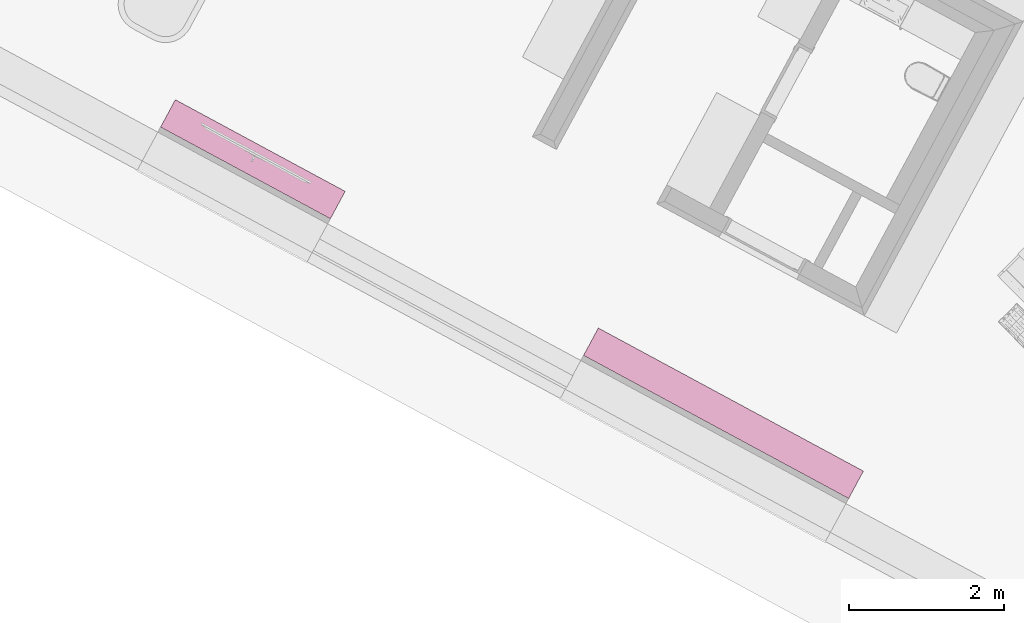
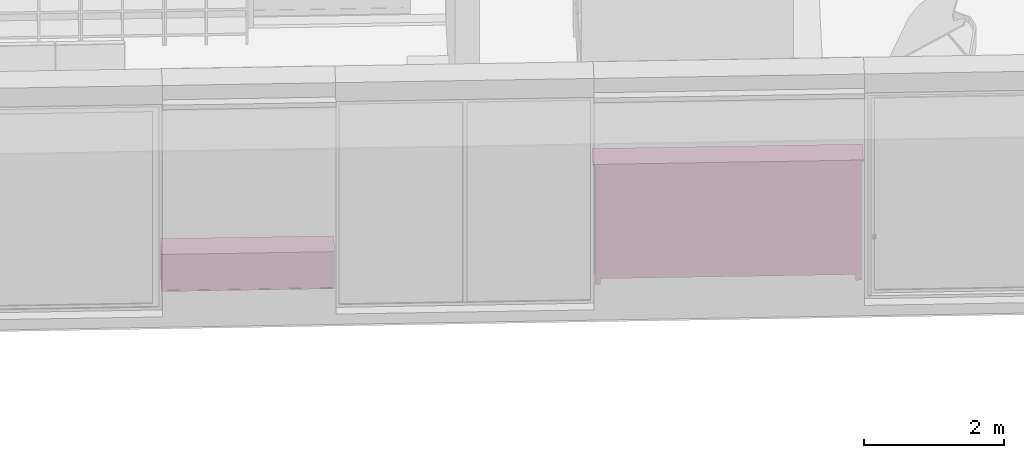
# One storey, part 27 of 36: 2 furnishings.
"""IFC2X3 building model written with IfcOpenShell, lengths in metres."""

from ifc_helpers import new_model, entity, si_unit, converted_unit, derived_unit, money_unit, direction, frame, origin_with_axes, place, context, subcontext, project, spatial, faceted_brep, type_object, element, save


model = new_model("IFC2X3")

# Units and contexts
model_context = context("Model", 3, precision=1e-05, world=origin_with_axes(), true_north=direction((0.0, 1.0)))
body_context = subcontext(model_context, "Body", "Model", "MODEL_VIEW")
ifc_project = project(units=[si_unit("LENGTHUNIT", "METRE"), si_unit("AREAUNIT", "SQUARE_METRE"), si_unit("VOLUMEUNIT", "CUBIC_METRE"), converted_unit("PLANEANGLEUNIT", "DEGREE", entity("IfcPlaneAngleMeasure", 0.0174532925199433), si_unit("PLANEANGLEUNIT", "RADIAN"), dimensions=[0, 0, 0, 0, 0, 0, 0]), money_unit("EUR"), converted_unit("TIMEUNIT", "Year", entity("IfcTimeMeasure", 31556926.0), si_unit("TIMEUNIT", "SECOND"), dimensions=[0, 0, 1, 0, 0, 0, 0]), si_unit("MASSUNIT", "GRAM", prefix="KILO"), si_unit("THERMODYNAMICTEMPERATUREUNIT", "DEGREE_CELSIUS"), si_unit("LUMINOUSINTENSITYUNIT", "LUMEN"), si_unit("ENERGYUNIT", "JOULE", prefix="MEGA"), derived_unit("THERMALCONDUCTANCEUNIT", [(si_unit("POWERUNIT", "WATT"), 1), (si_unit("LENGTHUNIT", "METRE"), -1), (si_unit("THERMODYNAMICTEMPERATUREUNIT", "KELVIN"), -1)]), derived_unit("SPECIFICHEATCAPACITYUNIT", [(si_unit("ENERGYUNIT", "JOULE"), 1), (si_unit("MASSUNIT", "GRAM", prefix="KILO"), -1), (si_unit("THERMODYNAMICTEMPERATUREUNIT", "KELVIN"), -1)]), derived_unit("MASSDENSITYUNIT", [(si_unit("MASSUNIT", "GRAM", prefix="KILO"), 1), (si_unit("VOLUMEUNIT", "CUBIC_METRE"), -1)])], contexts=[model_context])

# Site, building, storey
site_placement = place(None, frame((-3.949935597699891, 1.740105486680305, 0.0), z_axis=(0.0, 0.0, 1.0), x_axis=(0.8799804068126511, -0.475009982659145, 0.0)))
site = spatial("IfcSite", under=ifc_project, at=site_placement, Name="Gelände", CompositionType="ELEMENT")
building_placement = place(site_placement, origin_with_axes())
building = spatial("IfcBuilding", under=site, at=building_placement, Name="Gebäude", CompositionType="ELEMENT")
storey_placement = place(building_placement, origin_with_axes())
storey = spatial("IfcBuildingStorey", under=building, at=storey_placement, Name="Erdgeschoss", CompositionType="ELEMENT", Elevation=0.0)

# Furnishings
furniture_type_1 = type_object("IfcFurnitureType", Name="Sideboard wandhängend 26", AssemblyPlace="NOTDEFINED")
furnishing_1_placement = place(storey_placement, frame((9.07748140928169, 0.939992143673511, 0.0), z_axis=(0.0, 0.0, 1.0), x_axis=(-1.0, 0.0, 0.0)))
element("IfcFurnishingElement", 1, at=furnishing_1_placement, inside=storey, type_object=furniture_type_1, Name="Objekt-0099", ObjectType="FURNITURE", context=body_context, shape_type="Brep", body=[
    faceted_brep([(-2.482507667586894, 0.02, 0.0), (-2.482507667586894, 0.4000006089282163, 0.0), (0.0, 0.4000006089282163, 0.0), (0.0, 0.02, 0.0), (-2.482507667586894, 0.02, 0.02), (-2.482507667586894, 0.4000006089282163, 0.02), (0.0, 0.4000006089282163, 0.02), (0.0, 0.02, 0.02)], [[[0, 1, 2, 3]], [[0, 4, 5, 1]], [[1, 5, 6, 2]], [[2, 6, 7, 3]], [[3, 7, 4, 0]], [[7, 6, 5, 4]]]),
    faceted_brep([(-2.482507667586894, 0.02, 0.63), (-2.482507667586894, 0.4000006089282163, 0.63), (0.0, 0.4000006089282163, 0.63), (0.0, 0.02, 0.63), (-2.482507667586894, 0.02, 0.65), (-2.482507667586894, 0.4000006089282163, 0.65), (0.0, 0.4000006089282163, 0.65), (0.0, 0.02, 0.65)], [[[0, 1, 2, 3]], [[0, 4, 5, 1]], [[1, 5, 6, 2]], [[2, 6, 7, 3]], [[3, 7, 4, 0]], [[7, 6, 5, 4]]]),
    faceted_brep([(-2.462507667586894, 0.3900006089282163, 0.02), (-2.462507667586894, 0.3950006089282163, 0.02), (-0.02, 0.3950006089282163, 0.02), (-0.02, 0.3900006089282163, 0.02), (-2.462507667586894, 0.3900006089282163, 0.63), (-2.462507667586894, 0.3950006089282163, 0.63), (-0.02, 0.3950006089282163, 0.63), (-0.02, 0.3900006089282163, 0.63)], [[[0, 1, 2, 3]], [[0, 4, 5, 1]], [[1, 5, 6, 2]], [[2, 6, 7, 3]], [[3, 7, 4, 0]], [[7, 6, 5, 4]]]),
    faceted_brep([(-0.02, 0.02, 0.02), (-0.02, 0.4000006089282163, 0.02), (0.0, 0.4000006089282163, 0.02), (0.0, 0.02, 0.02), (-0.02, 0.02, 0.63), (-0.02, 0.4000006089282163, 0.63), (0.0, 0.4000006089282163, 0.63), (0.0, 0.02, 0.63)], [[[0, 1, 2, 3]], [[0, 4, 5, 1]], [[1, 5, 6, 2]], [[2, 6, 7, 3]], [[3, 7, 4, 0]], [[7, 6, 5, 4]]]),
    faceted_brep([(-2.482507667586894, 0.02, 0.02), (-2.482507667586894, 0.4000006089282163, 0.02), (-2.462507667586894, 0.4000006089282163, 0.02), (-2.462507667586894, 0.02, 0.02), (-2.482507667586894, 0.02, 0.63), (-2.482507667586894, 0.4000006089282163, 0.63), (-2.462507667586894, 0.4000006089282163, 0.63), (-2.462507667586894, 0.02, 0.63)], [[[0, 1, 2, 3]], [[0, 4, 5, 1]], [[1, 5, 6, 2]], [[2, 6, 7, 3]], [[3, 7, 4, 0]], [[7, 6, 5, 4]]]),
    faceted_brep([(-2.481007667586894, 0.02, 0.0015), (-0.001500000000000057, 0.02, 0.0015), (-0.001500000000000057, 0.0, 0.001500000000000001), (-2.481007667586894, 0.0, 0.001500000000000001), (-2.481007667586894, 0.02000000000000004, 0.6485), (-0.001500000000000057, 0.02000000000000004, 0.6485), (-0.001500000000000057, 0.0, 0.6485), (-2.481007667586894, 0.0, 0.6485)], [[[0, 1, 2, 3]], [[0, 4, 5, 1]], [[1, 5, 6, 2]], [[3, 2, 6, 7]], [[4, 0, 3, 7]], [[5, 4, 7, 6]]]),
    faceted_brep([(-2.462507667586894, 0.02, 0.315), (-2.462507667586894, 0.3900006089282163, 0.315), (-0.02, 0.3900006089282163, 0.315), (-0.02, 0.02, 0.315), (-2.462507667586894, 0.02, 0.335), (-2.462507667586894, 0.3900006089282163, 0.335), (-0.02, 0.3900006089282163, 0.335), (-0.02, 0.02, 0.335)], [[[0, 1, 2, 3]], [[0, 4, 5, 1]], [[1, 5, 6, 2]], [[2, 6, 7, 3]], [[3, 7, 4, 0]], [[7, 6, 5, 4]]]),
])
furniture_type_2 = type_object("IfcFurnitureType", Name="Kleiderschrank 22", AssemblyPlace="NOTDEFINED")
furnishing_2_placement = place(storey_placement, frame((19.13486092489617, 0.9399891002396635, 0.0), z_axis=(0.0, 0.0, 1.0), x_axis=(-1.0, 0.0, 0.0)))
element("IfcFurnishingElement", 2, at=furnishing_2_placement, inside=storey, type_object=furniture_type_2, Name="Objekt-0067", ObjectType="FURNITURE", context=body_context, shape_type="Brep", body=[
    faceted_brep([(0.05000000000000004, 0.3999990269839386, 0.12), (0.05000000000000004, 0.3799990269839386, 0.12), (0.05000000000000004, 0.3799990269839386, 2.05), (0.05000000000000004, 0.3999990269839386, 2.05), (3.824872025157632, 0.3999990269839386, 0.12), (3.824872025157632, 0.3799990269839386, 0.12), (3.824872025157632, 0.3799990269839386, 2.05), (3.824872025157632, 0.3999990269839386, 2.05)], [[[0, 1, 2, 3]], [[0, 4, 5, 1]], [[1, 5, 6, 2]], [[3, 2, 6, 7]], [[4, 0, 3, 7]], [[5, 4, 7, 6]]]),
    faceted_brep([(3.844872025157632, 0.04999999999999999, 0.1), (3.824872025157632, 0.04999999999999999, 0.1), (3.824872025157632, 0.3999990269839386, 0.1), (3.844872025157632, 0.3999990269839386, 0.1), (3.844872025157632, 0.04999999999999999, 2.07), (3.824872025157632, 0.04999999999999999, 2.07), (3.824872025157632, 0.3999990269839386, 2.07), (3.844872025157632, 0.3999990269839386, 2.07)], [[[0, 1, 2, 3]], [[1, 0, 4, 5]], [[2, 1, 5, 6]], [[3, 2, 6, 7]], [[0, 3, 7, 4]], [[5, 4, 7, 6]]]),
    faceted_brep([(0.05000000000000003, 0.04999999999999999, 0.1), (0.03000000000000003, 0.04999999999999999, 0.1), (0.03000000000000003, 0.3999990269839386, 0.1), (0.05000000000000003, 0.3999990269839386, 0.1), (0.05000000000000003, 0.04999999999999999, 2.07), (0.03000000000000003, 0.04999999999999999, 2.07), (0.03000000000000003, 0.3999990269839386, 2.07), (0.05000000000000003, 0.3999990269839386, 2.07)], [[[0, 1, 2, 3]], [[1, 0, 4, 5]], [[2, 1, 5, 6]], [[3, 2, 6, 7]], [[0, 3, 7, 4]], [[5, 4, 7, 6]]]),
    faceted_brep([(3.824872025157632, 0.04999999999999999, 0.1), (0.05000000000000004, 0.04999999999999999, 0.1), (0.05000000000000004, 0.3999990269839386, 0.1), (3.824872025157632, 0.3999990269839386, 0.1), (3.824872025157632, 0.04999999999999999, 0.12), (0.05000000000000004, 0.04999999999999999, 0.12), (0.05000000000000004, 0.3999990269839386, 0.12), (3.824872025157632, 0.3999990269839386, 0.12)], [[[0, 1, 2, 3]], [[1, 0, 4, 5]], [[2, 1, 5, 6]], [[3, 2, 6, 7]], [[0, 3, 7, 4]], [[5, 4, 7, 6]]]),
    faceted_brep([(3.824872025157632, 0.04999999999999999, 2.05), (0.05000000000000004, 0.04999999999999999, 2.05), (0.05000000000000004, 0.3999990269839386, 2.05), (3.824872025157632, 0.3999990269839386, 2.05), (3.824872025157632, 0.04999999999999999, 2.07), (0.05000000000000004, 0.04999999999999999, 2.07), (0.05000000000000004, 0.3999990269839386, 2.07), (3.824872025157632, 0.3999990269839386, 2.07)], [[[0, 1, 2, 3]], [[1, 0, 4, 5]], [[2, 1, 5, 6]], [[3, 2, 6, 7]], [[0, 3, 7, 4]], [[5, 4, 7, 6]]]),
    faceted_brep([(3.874872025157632, 0.3999990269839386, 2.07), (3.874872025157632, 0.3999990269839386, 2.1), (3.874872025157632, 0.0, 2.1), (3.874872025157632, 0.0, 2.07), (0.0, 0.3999990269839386, 2.07), (0.0, 0.3999990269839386, 2.1), (0.0, 0.0, 2.1), (0.0, 0.0, 2.07)], [[[0, 1, 2, 3]], [[4, 5, 1, 0]], [[1, 5, 6, 2]], [[3, 2, 6, 7]], [[0, 3, 7, 4]], [[7, 6, 5, 4]]]),
    faceted_brep([(0.1100000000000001, 0.3199990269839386, 0.0), (0.1100000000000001, 0.3999990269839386, 0.0), (0.1100000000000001, 0.3999990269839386, 0.1), (0.1100000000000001, 0.3199990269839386, 0.1), (0.03000000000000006, 0.3199990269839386, 0.0), (0.03000000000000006, 0.3999990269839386, 0.0), (0.03000000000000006, 0.3999990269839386, 0.1), (0.03000000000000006, 0.3199990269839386, 0.1)], [[[0, 1, 2, 3]], [[0, 4, 5, 1]], [[1, 5, 6, 2]], [[3, 2, 6, 7]], [[4, 0, 3, 7]], [[5, 4, 7, 6]]]),
    faceted_brep([(3.844872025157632, 0.3199990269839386, 0.0), (3.844872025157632, 0.3999990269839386, 0.0), (3.844872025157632, 0.3999990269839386, 0.1), (3.844872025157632, 0.3199990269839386, 0.1), (3.764872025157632, 0.3199990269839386, 0.0), (3.764872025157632, 0.3999990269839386, 0.0), (3.764872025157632, 0.3999990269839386, 0.1), (3.764872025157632, 0.3199990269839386, 0.1)], [[[0, 1, 2, 3]], [[0, 4, 5, 1]], [[1, 5, 6, 2]], [[3, 2, 6, 7]], [[4, 0, 3, 7]], [[5, 4, 7, 6]]]),
    faceted_brep([(0.1100000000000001, 0.05000000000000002, 0.0), (0.1100000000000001, 0.13, 0.0), (0.1100000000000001, 0.13, 0.1), (0.1100000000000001, 0.05000000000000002, 0.1), (0.03000000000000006, 0.05000000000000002, 0.0), (0.03000000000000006, 0.13, 0.0), (0.03000000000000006, 0.13, 0.1), (0.03000000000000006, 0.05000000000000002, 0.1)], [[[0, 1, 2, 3]], [[0, 4, 5, 1]], [[1, 5, 6, 2]], [[3, 2, 6, 7]], [[4, 0, 3, 7]], [[5, 4, 7, 6]]]),
    faceted_brep([(3.844872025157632, 0.05000000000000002, 0.0), (3.844872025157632, 0.13, 0.0), (3.844872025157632, 0.13, 0.1), (3.844872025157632, 0.05000000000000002, 0.1), (3.764872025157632, 0.05000000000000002, 0.0), (3.764872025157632, 0.13, 0.0), (3.764872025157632, 0.13, 0.1), (3.764872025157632, 0.05000000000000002, 0.1)], [[[0, 1, 2, 3]], [[0, 4, 5, 1]], [[1, 5, 6, 2]], [[3, 2, 6, 7]], [[4, 0, 3, 7]], [[5, 4, 7, 6]]]),
    faceted_brep([(0.04049999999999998, 0.05, 0.1104999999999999), (1.936936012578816, 0.05, 0.1104999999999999), (1.936936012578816, 0.03, 0.1104999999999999), (0.04049999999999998, 0.03, 0.1104999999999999), (0.04049999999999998, 0.05000000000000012, 2.0595), (1.936936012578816, 0.05000000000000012, 2.0595), (1.936936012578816, 0.03000000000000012, 2.0595), (0.04049999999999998, 0.03000000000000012, 2.0595)], [[[0, 1, 2, 3]], [[0, 4, 5, 1]], [[1, 5, 6, 2]], [[3, 2, 6, 7]], [[4, 0, 3, 7]], [[5, 4, 7, 6]]]),
    faceted_brep([(1.874362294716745, 0.03, 0.955), (1.874362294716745, 0.03, 0.965), (1.88643446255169, 0.03, 0.965), (1.88643446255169, 0.03, 0.955), (1.863261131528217, 0.01914952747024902, 0.965), (1.863261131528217, 0.01914952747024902, 0.955), (1.809610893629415, 0.01914952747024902, 0.965), (1.798509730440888, 0.03, 0.965), (1.786437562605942, 0.03, 0.965), (1.801407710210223, 0.01692943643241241, 0.965), (1.818401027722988, 0.008772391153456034, 0.965), (1.836436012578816, 0.006000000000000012, 0.965), (1.854470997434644, 0.008772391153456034, 0.965), (1.87146431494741, 0.01692943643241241, 0.965), (1.85032386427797, 0.01232720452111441, 0.965), (1.836436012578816, 0.009999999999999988, 0.965), (1.822548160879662, 0.01232720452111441, 0.965), (1.87146431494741, 0.01692943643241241, 0.955), (1.854470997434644, 0.008772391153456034, 0.955), (1.836436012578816, 0.006000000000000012, 0.955), (1.818401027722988, 0.008772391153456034, 0.955), (1.801407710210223, 0.01692943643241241, 0.955), (1.786437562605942, 0.03, 0.955), (1.798509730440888, 0.03, 0.955), (1.809610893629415, 0.01914952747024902, 0.955), (1.822548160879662, 0.01232720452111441, 0.955), (1.836436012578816, 0.009999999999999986, 0.955), (1.85032386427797, 0.01232720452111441, 0.955)], [[[0, 1, 2, 3]], [[4, 1, 0, 5]], [[6, 7, 8, 9, 10, 11, 12, 13, 2, 1, 4, 14, 15, 16]], [[13, 17, 3, 2]], [[5, 0, 3, 17, 18, 19, 20, 21, 22, 23, 24, 25, 26, 27]], [[14, 4, 5, 27]], [[7, 6, 24, 23]], [[7, 23, 22, 8]], [[8, 22, 21, 9]], [[9, 21, 20, 10]], [[10, 20, 19, 11]], [[11, 19, 18, 12]], [[12, 18, 17, 13]], [[15, 14, 27, 26]], [[16, 15, 26, 25]], [[6, 16, 25, 24]]]),
    faceted_brep([(1.938936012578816, 0.05, 0.1104999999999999), (3.835372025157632, 0.05, 0.1104999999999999), (3.835372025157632, 0.03, 0.1104999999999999), (1.938936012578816, 0.03, 0.1104999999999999), (1.938936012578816, 0.05000000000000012, 2.0595), (3.835372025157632, 0.05000000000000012, 2.0595), (3.835372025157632, 0.03000000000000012, 2.0595), (1.938936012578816, 0.03000000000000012, 2.0595)], [[[0, 1, 2, 3]], [[0, 4, 5, 1]], [[1, 5, 6, 2]], [[3, 2, 6, 7]], [[4, 0, 3, 7]], [[5, 4, 7, 6]]]),
    faceted_brep([(2.076362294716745, 0.03, 0.955), (2.076362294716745, 0.03, 0.965), (2.08843446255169, 0.03, 0.965), (2.08843446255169, 0.03, 0.955), (2.065261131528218, 0.01914952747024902, 0.965), (2.065261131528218, 0.01914952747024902, 0.955), (2.011610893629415, 0.01914952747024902, 0.965), (2.000509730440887, 0.03, 0.965), (1.988437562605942, 0.03, 0.965), (2.003407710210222, 0.01692943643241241, 0.965), (2.020401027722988, 0.008772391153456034, 0.965), (2.038436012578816, 0.006000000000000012, 0.965), (2.056470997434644, 0.008772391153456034, 0.965), (2.073464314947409, 0.01692943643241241, 0.965), (2.05232386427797, 0.01232720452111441, 0.965), (2.038436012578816, 0.009999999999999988, 0.965), (2.024548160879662, 0.01232720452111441, 0.965), (2.073464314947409, 0.01692943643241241, 0.955), (2.056470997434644, 0.008772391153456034, 0.955), (2.038436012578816, 0.006000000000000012, 0.955), (2.020401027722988, 0.008772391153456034, 0.955), (2.003407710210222, 0.01692943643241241, 0.955), (1.988437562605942, 0.03, 0.955), (2.000509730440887, 0.03, 0.955), (2.011610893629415, 0.01914952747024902, 0.955), (2.024548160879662, 0.01232720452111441, 0.955), (2.038436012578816, 0.009999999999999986, 0.955), (2.05232386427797, 0.01232720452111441, 0.955)], [[[0, 1, 2, 3]], [[4, 1, 0, 5]], [[6, 7, 8, 9, 10, 11, 12, 13, 2, 1, 4, 14, 15, 16]], [[17, 3, 2, 13]], [[5, 0, 3, 17, 18, 19, 20, 21, 22, 23, 24, 25, 26, 27]], [[14, 4, 5, 27]], [[7, 6, 24, 23]], [[7, 23, 22, 8]], [[22, 21, 9, 8]], [[21, 20, 10, 9]], [[20, 19, 11, 10]], [[19, 18, 12, 11]], [[18, 17, 13, 12]], [[15, 14, 27, 26]], [[16, 15, 26, 25]], [[6, 16, 25, 24]]]),
])

save(model, "model.ifc")
